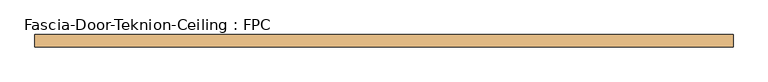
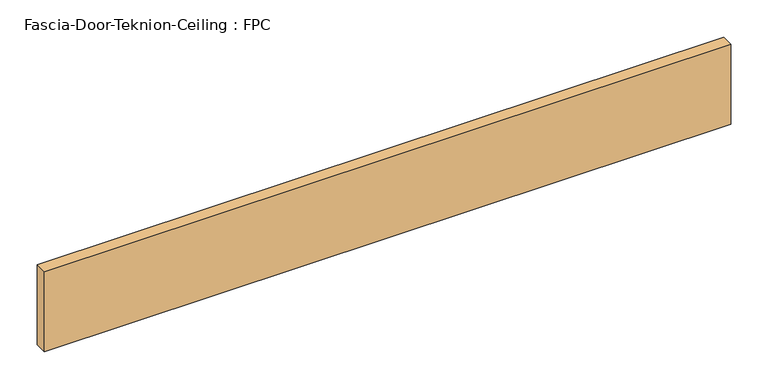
"""IFC4 building model written with IfcOpenShell, lengths in millimetres: door geometry, Fascia-Door-Teknion-Ceiling : FPC."""

from ifc_helpers import new_model, si_unit, origin, origin_with_axes, place, context, project, spatial, polyline, outline, extrude, source, transform, mapped, element, save


def fascia_door_teknion_ceiling_fpc_77f6f4b8(model_context):
    return source(origin(), model_context, "Body", "SweptSolid", [
        extrude(outline(polyline([(534.0201172, 0.0), (-534.0201172, 0.0), (-534.0201172, 19.05), (534.0201172, 19.05), (534.0201172, 0.0)])), origin_with_axes(), (0.0, 0.0, 1.0), 132.08),
    ])


if __name__ == "__main__":
    model = new_model("IFC4")
    model_context = context("Model", 3, world=origin())
    ifc_project = project(units=[si_unit("LENGTHUNIT", "METRE", prefix="MILLI")], contexts=[model_context])
    site = spatial("IfcSite", under=ifc_project)
    building = spatial("IfcBuilding", under=site)
    placement = place(None, origin())
    fascia_door_teknion_ceiling_fpc_shape = fascia_door_teknion_ceiling_fpc_77f6f4b8(model_context)
    element("IfcDoor", 1, ObjectType="Fascia-Door-Teknion-Ceiling : FPC", at=placement, inside=building, context=model_context, shape_type="MappedRepresentation", body=[
        mapped(fascia_door_teknion_ceiling_fpc_shape, transform((0.0, 0.0, 0.0), x_axis=(1.0, 0.0, 0.0), y_axis=(0.0, 1.0, 0.0), z_axis=(0.0, 0.0, 1.0))),
    ])
    save(model, "model.ifc")
